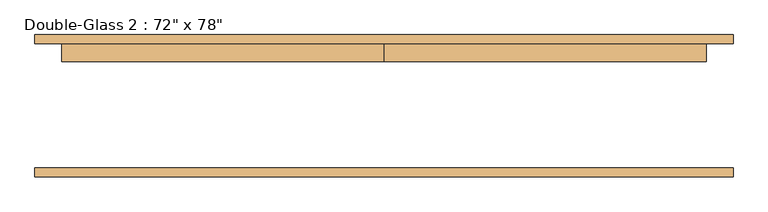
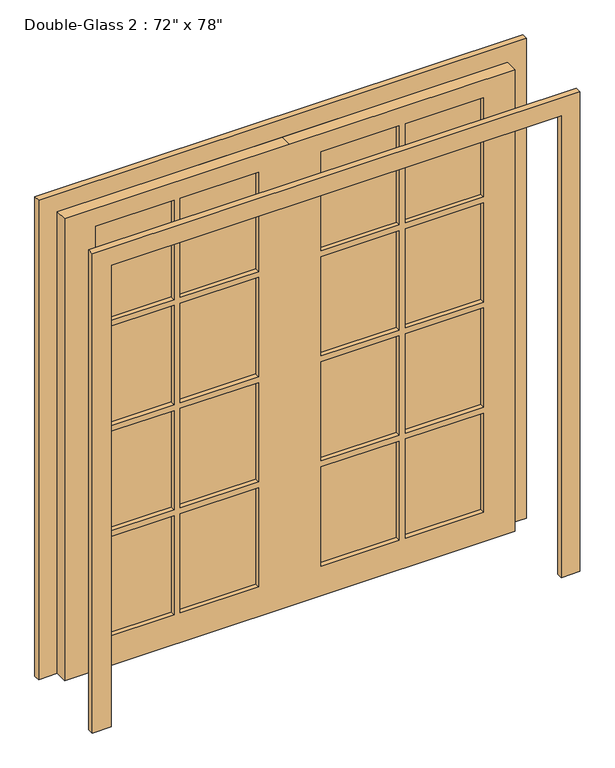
"""IFC4 building model written with IfcOpenShell, lengths in millimetres: door geometry."""

from ifc_helpers import new_model, si_unit, frame, origin, place, context, project, spatial, polyline, outline, extrude, source, transform, mapped, element, save


def door_74f1c961(model_context):
    return source(origin(), model_context, "Body", "SweptSolid", [
        extrude(outline(polyline([(469.9, 157.1625), (787.4, 157.1625), (787.4, 144.4625), (469.9, 144.4625), (469.9, 157.1625)])), frame((0.0, 0.0, 1479.55), z_axis=(0.0, 0.0, 1.0), x_axis=(1.0, 0.0, 0.0)), (0.0, 0.0, 1.0), 425.45),
        extrude(outline(polyline([(127.0, 157.1625), (444.5, 157.1625), (444.5, 144.4625), (127.0, 144.4625), (127.0, 157.1625)])), frame((0.0, 0.0, 1479.55), z_axis=(0.0, 0.0, 1.0), x_axis=(1.0, 0.0, 0.0)), (0.0, 0.0, 1.0), 425.45),
        extrude(outline(polyline([(-444.5, 157.1625), (-127.0, 157.1625), (-127.0, 144.4625), (-444.5, 144.4625), (-444.5, 157.1625)])), frame((0.0, 0.0, 1479.55), z_axis=(0.0, 0.0, 1.0), x_axis=(1.0, 0.0, 0.0)), (0.0, 0.0, 1.0), 425.45),
        extrude(outline(polyline([(-787.4, 157.1625), (-469.9, 157.1625), (-469.9, 144.4625), (-787.4, 144.4625), (-787.4, 157.1625)])), frame((0.0, 0.0, 1479.55), z_axis=(0.0, 0.0, 1.0), x_axis=(1.0, 0.0, 0.0)), (0.0, 0.0, 1.0), 425.45),
        extrude(outline(polyline([(-787.4, 157.1625), (-469.9, 157.1625), (-469.9, 144.4625), (-787.4, 144.4625), (-787.4, 157.1625)])), frame((0.0, 0.0, 1028.7), z_axis=(0.0, 0.0, 1.0), x_axis=(1.0, 0.0, 0.0)), (0.0, 0.0, 1.0), 425.45),
        extrude(outline(polyline([(-444.5, 157.1625), (-127.0, 157.1625), (-127.0, 144.4625), (-444.5, 144.4625), (-444.5, 157.1625)])), frame((0.0, 0.0, 1028.7), z_axis=(0.0, 0.0, 1.0), x_axis=(1.0, 0.0, 0.0)), (0.0, 0.0, 1.0), 425.45),
        extrude(outline(polyline([(127.0, 157.1625), (444.5, 157.1625), (444.5, 144.4625), (127.0, 144.4625), (127.0, 157.1625)])), frame((0.0, 0.0, 1028.7), z_axis=(0.0, 0.0, 1.0), x_axis=(1.0, 0.0, 0.0)), (0.0, 0.0, 1.0), 425.45),
        extrude(outline(polyline([(469.9, 157.1625), (787.4, 157.1625), (787.4, 144.4625), (469.9, 144.4625), (469.9, 157.1625)])), frame((0.0, 0.0, 1028.7), z_axis=(0.0, 0.0, 1.0), x_axis=(1.0, 0.0, 0.0)), (0.0, 0.0, 1.0), 425.45),
        extrude(outline(polyline([(469.9, 157.1625), (787.4, 157.1625), (787.4, 144.4625), (469.9, 144.4625), (469.9, 157.1625)])), frame((0.0, 0.0, 577.85), z_axis=(0.0, 0.0, 1.0), x_axis=(1.0, 0.0, 0.0)), (0.0, 0.0, 1.0), 425.45),
        extrude(outline(polyline([(127.0, 157.1625), (444.5, 157.1625), (444.5, 144.4625), (127.0, 144.4625), (127.0, 157.1625)])), frame((0.0, 0.0, 577.85), z_axis=(0.0, 0.0, 1.0), x_axis=(1.0, 0.0, 0.0)), (0.0, 0.0, 1.0), 425.45),
        extrude(outline(polyline([(-444.5, 157.1625), (-127.0, 157.1625), (-127.0, 144.4625), (-444.5, 144.4625), (-444.5, 157.1625)])), frame((0.0, 0.0, 577.85), z_axis=(0.0, 0.0, 1.0), x_axis=(1.0, 0.0, 0.0)), (0.0, 0.0, 1.0), 425.45),
        extrude(outline(polyline([(-787.4, 157.1625), (-469.9, 157.1625), (-469.9, 144.4625), (-787.4, 144.4625), (-787.4, 157.1625)])), frame((0.0, 0.0, 577.85), z_axis=(0.0, 0.0, 1.0), x_axis=(1.0, 0.0, 0.0)), (0.0, 0.0, 1.0), 425.45),
        extrude(outline(polyline([(469.9, 157.1625), (787.4, 157.1625), (787.4, 144.4625), (469.9, 144.4625), (469.9, 157.1625)])), frame((0.0, 0.0, 127.0), z_axis=(0.0, 0.0, 1.0), x_axis=(1.0, 0.0, 0.0)), (0.0, 0.0, 1.0), 425.45),
        extrude(outline(polyline([(127.0, 157.1625), (444.5, 157.1625), (444.5, 144.4625), (127.0, 144.4625), (127.0, 157.1625)])), frame((0.0, 0.0, 127.0), z_axis=(0.0, 0.0, 1.0), x_axis=(1.0, 0.0, 0.0)), (0.0, 0.0, 1.0), 425.45),
        extrude(outline(polyline([(-444.5, 157.1625), (-127.0, 157.1625), (-127.0, 144.4625), (-444.5, 144.4625), (-444.5, 157.1625)])), frame((0.0, 0.0, 127.0), z_axis=(0.0, 0.0, 1.0), x_axis=(1.0, 0.0, 0.0)), (0.0, 0.0, 1.0), 425.45),
        extrude(outline(polyline([(-787.4, 157.1625), (-469.9, 157.1625), (-469.9, 144.4625), (-787.4, 144.4625), (-787.4, 157.1625)])), frame((0.0, 0.0, 127.0), z_axis=(0.0, 0.0, 1.0), x_axis=(1.0, 0.0, 0.0)), (0.0, 0.0, 1.0), 425.45),
        extrude(outline(polyline([(1981.2, 0.0), (1981.2, -914.4), (0.0, -914.4), (0.0, 0.0), (0.0, 914.4), (1981.2, 914.4), (1981.2, 0.0)]), holes=[polyline([(1905.0, 469.9), (1905.0, 787.4), (1479.55, 787.4), (1479.55, 469.9), (1905.0, 469.9)]), polyline([(1905.0, 127.0), (1905.0, 444.5), (1479.55, 444.5), (1479.55, 127.0), (1905.0, 127.0)]), polyline([(1454.15, 469.9), (1454.15, 787.4), (1028.7, 787.4), (1028.7, 469.9), (1454.15, 469.9)]), polyline([(1454.15, 127.0), (1454.15, 444.5), (1028.7, 444.5), (1028.7, 127.0), (1454.15, 127.0)]), polyline([(1003.3, 469.9), (1003.3, 787.4), (577.85, 787.4), (577.85, 469.9), (1003.3, 469.9)]), polyline([(1003.3, 127.0), (1003.3, 444.5), (577.85, 444.5), (577.85, 127.0), (1003.3, 127.0)]), polyline([(552.45, 469.9), (552.45, 787.4), (127.0, 787.4), (127.0, 469.9), (552.45, 469.9)]), polyline([(552.45, 127.0), (552.45, 444.5), (127.0, 444.5), (127.0, 127.0), (552.45, 127.0)]), polyline([(1905.0, -444.5), (1905.0, -127.0), (1479.55, -127.0), (1479.55, -444.5), (1905.0, -444.5)]), polyline([(1454.15, -444.5), (1454.15, -127.0), (1028.7, -127.0), (1028.7, -444.5), (1454.15, -444.5)]), polyline([(1454.15, -469.9), (1028.7, -469.9), (1028.7, -787.4), (1454.15, -787.4), (1454.15, -469.9)]), polyline([(1003.3, -444.5), (1003.3, -127.0), (577.85, -127.0), (577.85, -444.5), (1003.3, -444.5)]), polyline([(1003.3, -469.9), (577.85, -469.9), (577.85, -787.4), (1003.3, -787.4), (1003.3, -469.9)]), polyline([(552.45, -444.5), (552.45, -127.0), (127.0, -127.0), (127.0, -444.5), (552.45, -444.5)]), polyline([(552.45, -787.4), (552.45, -469.9), (127.0, -469.9), (127.0, -787.4), (552.45, -787.4)]), polyline([(1479.55, -469.9), (1479.55, -787.4), (1905.0, -787.4), (1905.0, -469.9), (1479.55, -469.9)])]), frame((0.0, 125.4125, 0.0), z_axis=(0.0, 1.0, 0.0), x_axis=(0.0, 0.0, 1.0)), (0.0, 0.0, 1.0), 50.8),
        extrude(outline(polyline([(1981.2, -914.4), (1981.2, 914.4), (0.0, 914.4), (0.0, 990.6), (2057.4, 990.6), (2057.4, -990.6), (0.0, -990.6), (0.0, -914.4), (1981.2, -914.4)])), frame((0.0, -201.6125, 0.0), z_axis=(0.0, 1.0, 0.0), x_axis=(0.0, 0.0, 1.0)), (0.0, 0.0, 1.0), 25.4),
        extrude(outline(polyline([(1981.2, -914.4), (1981.2, 914.4), (0.0, 914.4), (0.0, 990.6), (2057.4, 990.6), (2057.4, -990.6), (0.0, -990.6), (0.0, -914.4), (1981.2, -914.4)])), frame((0.0, 176.2125, 0.0), z_axis=(0.0, 1.0, 0.0), x_axis=(0.0, 0.0, 1.0)), (0.0, 0.0, 1.0), 25.4),
    ])


if __name__ == "__main__":
    model = new_model("IFC4")
    model_context = context("Model", 3, world=origin())
    ifc_project = project(units=[si_unit("LENGTHUNIT", "METRE", prefix="MILLI")], contexts=[model_context])
    site = spatial("IfcSite", under=ifc_project)
    building = spatial("IfcBuilding", under=site)
    placement = place(None, origin())
    door_shape = door_74f1c961(model_context)
    element("IfcDoor", 1, ObjectType="Double-Glass 2 : 72\" x 78\"", at=placement, inside=building, context=model_context, shape_type="MappedRepresentation", body=[
        mapped(door_shape, transform((0.0, 0.0, 0.0), x_axis=(1.0, 0.0, 0.0), y_axis=(0.0, 1.0, 0.0), z_axis=(0.0, 0.0, 1.0))),
    ])
    save(model, "model.ifc")
